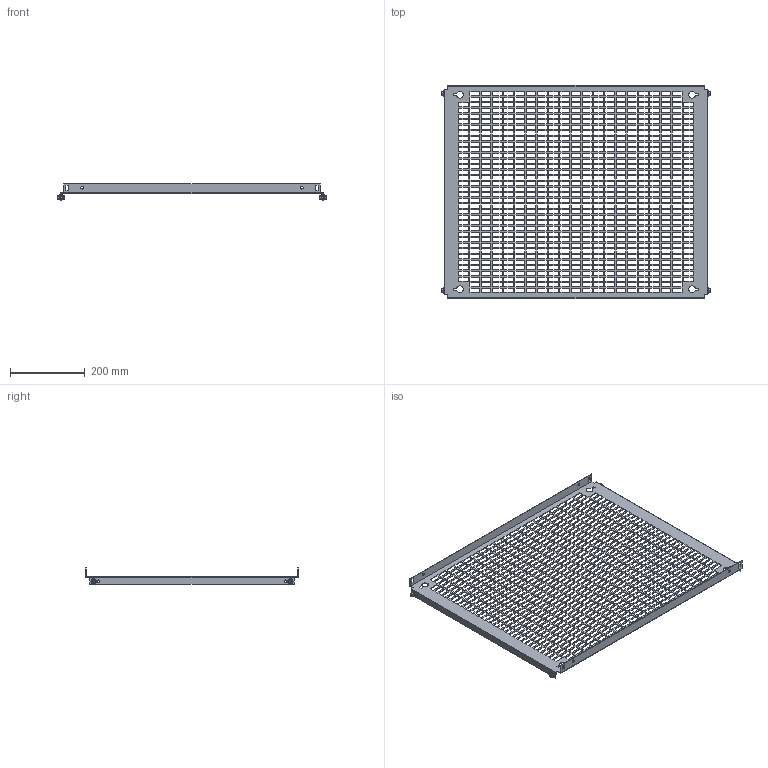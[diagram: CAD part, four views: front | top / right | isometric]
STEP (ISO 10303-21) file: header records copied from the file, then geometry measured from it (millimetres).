
FILE_DESCRIPTION(('Open CASCADE Model'),'2;1');
FILE_NAME('Open CASCADE Shape Model','2025-02-19T16:50:20',('Author'),( 'Open CASCADE'),'Open CASCADE STEP processor 7.8','Open CASCADE 7.8' ,'Unknown');
FILE_SCHEMA(('AUTOMOTIVE_DESIGN { 1 0 10303 214 1 1 1 1 }'));
Length unit declared in the file: millimetre
Products named in the file (4): Compound1; Solid1; Solid2; Solid3
Assembly tree (9 placements, depth 2):
  Compound1
    Solid1
    Solid2  x4
    Solid3  x4
Bounding box: 720 x 569 x 43 mm (x, y, z)
Volume: 472398.2 mm3; surface area: 589145.8 mm2
Topology: 9 solids, 9 shells, 3282 faces, 9674 edges, 6414 vertices
Faces by surface type: plane 3126, cone 68, bspline 48, cylinder 28, torus 12
Full cylindrical faces by diameter (mm): 5 x4, 6 x8, 7 x12
Entity records: 106432 total; most frequent: CARTESIAN_POINT 19279, ORIENTED_EDGE 18670, DIRECTION 15568, EDGE_CURVE 9335, LINE 9184, VECTOR 9184, VERTEX_POINT 6216, FACE_BOUND 4665
